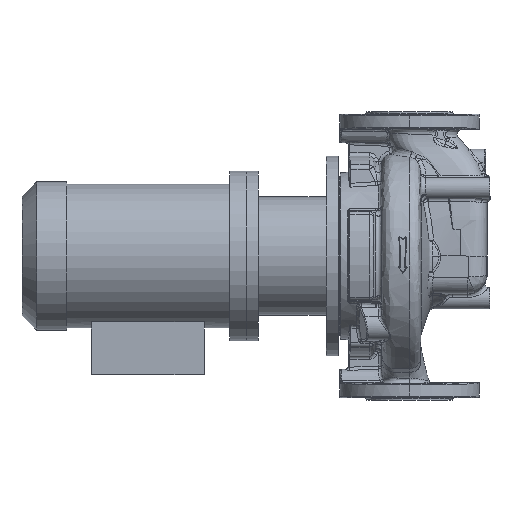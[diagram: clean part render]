
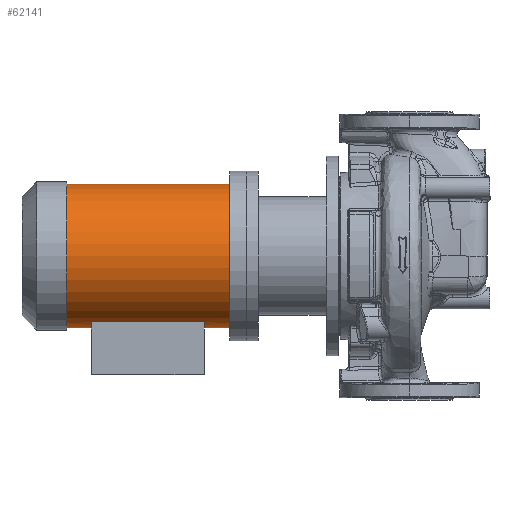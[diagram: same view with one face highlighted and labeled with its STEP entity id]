
A CAD part, left-side view. The second image highlights one B-rep face of the part: STEP entity #62141.
In plain terms, the highlighted cylindrical face has radius 84.5 mm (diameter 169 mm), a partial arc.
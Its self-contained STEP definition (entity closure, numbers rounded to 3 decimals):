
#3608 = ORIENTED_EDGE ( 'NONE', *, *, #85951, .T. ) ;
#3734 = VERTEX_POINT ( 'NONE', #87079 ) ;
#4690 = VERTEX_POINT ( 'NONE', #67942 ) ;
#5183 = AXIS2_PLACEMENT_3D ( 'NONE', #27181, #26235, #20952 ) ;
#5924 = ORIENTED_EDGE ( 'NONE', *, *, #52698, .T. ) ;
#7088 = CARTESIAN_POINT ( 'NONE',  ( 0., 192.3, -84.5 ) ) ;
#9182 = EDGE_CURVE ( 'NONE', #3734, #15347, #54511, .T. ) ;
#10192 = EDGE_CURVE ( 'NONE', #68613, #17623, #36997, .T. ) ;
#10267 = AXIS2_PLACEMENT_3D ( 'NONE', #51186, #20541, #66144 ) ;
#11500 = VECTOR ( 'NONE', #45546, 1000. ) ;
#13170 = ORIENTED_EDGE ( 'NONE', *, *, #43498, .T. ) ;
#15347 = VERTEX_POINT ( 'NONE', #21500 ) ;
#15575 = CARTESIAN_POINT ( 'NONE',  ( 0., 192.3, 84.5 ) ) ;
#17623 = VERTEX_POINT ( 'NONE', #57697 ) ;
#20541 = DIRECTION ( 'NONE',  ( 0., 1., 0. ) ) ;
#20952 = DIRECTION ( 'NONE',  ( 0., 0., -1. ) ) ;
#21500 = CARTESIAN_POINT ( 'NONE',  ( 0., 375.3, -84.5 ) ) ;
#21573 = DIRECTION ( 'NONE',  ( 0., -1., 0. ) ) ;
#24029 = CARTESIAN_POINT ( 'NONE',  ( 0., 375.3, 0. ) ) ;
#24474 = CARTESIAN_POINT ( 'NONE',  ( 0., 404.3, 0. ) ) ;
#24548 = FACE_OUTER_BOUND ( 'NONE', #67567, .T. ) ;
#26235 = DIRECTION ( 'NONE',  ( 0., -1., 0. ) ) ;
#26312 = EDGE_CURVE ( 'NONE', #62959, #87652, #71414, .T. ) ;
#27181 = CARTESIAN_POINT ( 'NONE',  ( 0., 192.3, 0. ) ) ;
#29019 = LINE ( 'NONE', #7088, #11500 ) ;
#30233 = CIRCLE ( 'NONE', #67177, 84.5 ) ;
#31516 = DIRECTION ( 'NONE',  ( 0., 0., -1. ) ) ;
#31559 = DIRECTION ( 'NONE',  ( 0., -1., 0. ) ) ;
#31965 = DIRECTION ( 'NONE',  ( 0., -1., 0. ) ) ;
#35960 = AXIS2_PLACEMENT_3D ( 'NONE', #24029, #76109, #31516 ) ;
#36280 = CARTESIAN_POINT ( 'NONE',  ( -33., 192.3, -77.79 ) ) ;
#36997 = CIRCLE ( 'NONE', #10267, 84.5 ) ;
#38964 = EDGE_CURVE ( 'NONE', #4690, #17623, #95559, .T. ) ;
#42790 = EDGE_CURVE ( 'NONE', #86747, #68613, #29019, .T. ) ;
#43498 = EDGE_CURVE ( 'NONE', #87652, #86747, #30233, .T. ) ;
#45211 = VECTOR ( 'NONE', #73406, 1000. ) ;
#45546 = DIRECTION ( 'NONE',  ( 0., -1., 0. ) ) ;
#50433 = VECTOR ( 'NONE', #21573, 1000. ) ;
#51186 = CARTESIAN_POINT ( 'NONE',  ( 0., 212.3, 0. ) ) ;
#51203 = AXIS2_PLACEMENT_3D ( 'NONE', #24474, #31965, #76226 ) ;
#52698 = EDGE_CURVE ( 'NONE', #4690, #3734, #58931, .T. ) ;
#54026 = ORIENTED_EDGE ( 'NONE', *, *, #38964, .F. ) ;
#54511 = LINE ( 'NONE', #94628, #45211 ) ;
#57697 = CARTESIAN_POINT ( 'NONE',  ( 0., 212.3, 84.5 ) ) ;
#58749 = CARTESIAN_POINT ( 'NONE',  ( 0., 212.3, -84.5 ) ) ;
#58931 = CIRCLE ( 'NONE', #51203, 84.5 ) ;
#59007 = ORIENTED_EDGE ( 'NONE', *, *, #10192, .T. ) ;
#62141 = ADVANCED_FACE ( 'NONE', ( #24548 ), #68837, .T. ) ;
#62959 = VERTEX_POINT ( 'NONE', #73818 ) ;
#66144 = DIRECTION ( 'NONE',  ( 0., 0., -1. ) ) ;
#66161 = CARTESIAN_POINT ( 'NONE',  ( 0., 242.3, -84.5 ) ) ;
#66682 = CIRCLE ( 'NONE', #35960, 84.5 ) ;
#66762 = CARTESIAN_POINT ( 'NONE',  ( 0., 242.3, 0. ) ) ;
#66777 = ORIENTED_EDGE ( 'NONE', *, *, #42790, .T. ) ;
#67177 = AXIS2_PLACEMENT_3D ( 'NONE', #66762, #74222, #90490 ) ;
#67567 = EDGE_LOOP ( 'NONE', ( #54026, #5924, #75456, #3608, #74615, #13170, #66777, #59007 ) ) ;
#67942 = CARTESIAN_POINT ( 'NONE',  ( 0., 404.3, 84.5 ) ) ;
#68613 = VERTEX_POINT ( 'NONE', #58749 ) ;
#68837 = CYLINDRICAL_SURFACE ( 'NONE', #5183, 84.5 ) ;
#71414 = LINE ( 'NONE', #36280, #50433 ) ;
#73406 = DIRECTION ( 'NONE',  ( 0., -1., 0. ) ) ;
#73818 = CARTESIAN_POINT ( 'NONE',  ( -33., 375.3, -77.79 ) ) ;
#74222 = DIRECTION ( 'NONE',  ( 0., -1., 0. ) ) ;
#74615 = ORIENTED_EDGE ( 'NONE', *, *, #26312, .T. ) ;
#75456 = ORIENTED_EDGE ( 'NONE', *, *, #9182, .T. ) ;
#76109 = DIRECTION ( 'NONE',  ( 0., 1., 0. ) ) ;
#76226 = DIRECTION ( 'NONE',  ( 0., 0., -1. ) ) ;
#76818 = VECTOR ( 'NONE', #31559, 1000. ) ;
#85951 = EDGE_CURVE ( 'NONE', #15347, #62959, #66682, .T. ) ;
#86747 = VERTEX_POINT ( 'NONE', #66161 ) ;
#87079 = CARTESIAN_POINT ( 'NONE',  ( 0., 404.3, -84.5 ) ) ;
#87652 = VERTEX_POINT ( 'NONE', #94795 ) ;
#90490 = DIRECTION ( 'NONE',  ( 0., 0., -1. ) ) ;
#94628 = CARTESIAN_POINT ( 'NONE',  ( 0., 192.3, -84.5 ) ) ;
#94795 = CARTESIAN_POINT ( 'NONE',  ( -33., 242.3, -77.79 ) ) ;
#95559 = LINE ( 'NONE', #15575, #76818 ) ;
